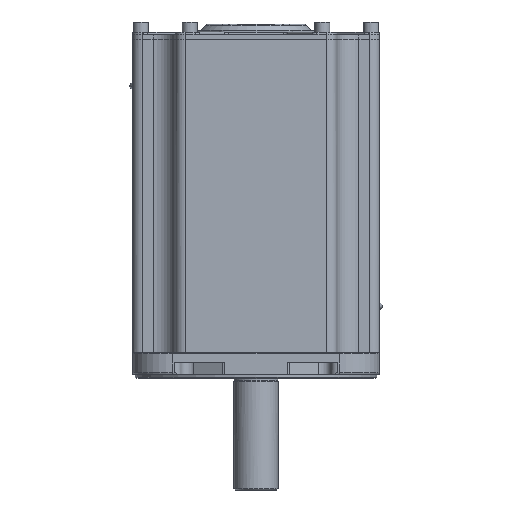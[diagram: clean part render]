
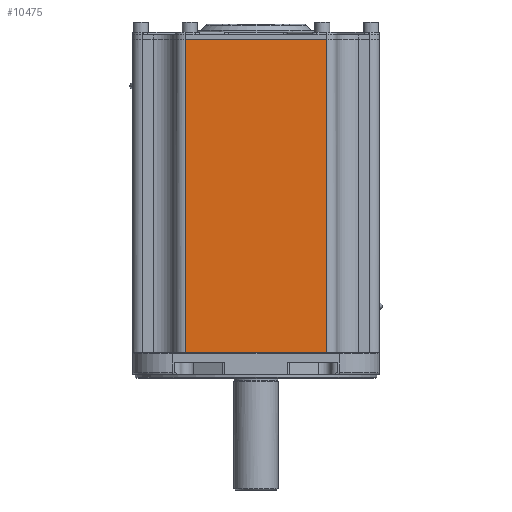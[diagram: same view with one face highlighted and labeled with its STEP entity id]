
A CAD part, front view. The second image highlights one B-rep face of the part: STEP entity #10475.
In plain terms, the highlighted planar face has unit normal (0, -1, 0).
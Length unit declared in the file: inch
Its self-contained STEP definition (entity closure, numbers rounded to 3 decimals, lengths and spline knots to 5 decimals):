
#9955=CARTESIAN_POINT('',(-2.65,-4.625,12.15));
#9956=VERTEX_POINT('',#9955);
#9963=CARTESIAN_POINT('',(2.65,-4.625,12.15));
#9964=VERTEX_POINT('',#9963);
#9965=CARTESIAN_POINT('',(2.65,-4.625,12.15));
#9966=DIRECTION('',(-1.0,0.0,0.0));
#9967=VECTOR('',#9966,5.3);
#9968=LINE('',#9965,#9967);
#9969=EDGE_CURVE('',#9964,#9956,#9968,.T.);
#10424=CARTESIAN_POINT('',(2.65,-4.625,0.4));
#10425=VERTEX_POINT('',#10424);
#10426=CARTESIAN_POINT('',(2.65,-4.625,12.15));
#10427=DIRECTION('',(0.0,0.0,-1.0));
#10428=VECTOR('',#10427,11.75);
#10429=LINE('',#10426,#10428);
#10430=EDGE_CURVE('',#9964,#10425,#10429,.T.);
#10452=CARTESIAN_POINT('',(3.025,-4.625,0.4));
#10453=DIRECTION('',(0.0,-1.0,0.0));
#10454=DIRECTION('',(0.0,0.0,-1.0));
#10455=AXIS2_PLACEMENT_3D('',#10452,#10453,#10454);
#10456=PLANE('',#10455);
#10457=ORIENTED_EDGE('',*,*,#9969,.T.);
#10458=CARTESIAN_POINT('',(-2.65,-4.625,0.4));
#10459=VERTEX_POINT('',#10458);
#10460=CARTESIAN_POINT('',(-2.65,-4.625,0.4));
#10461=DIRECTION('',(0.0,0.0,1.0));
#10462=VECTOR('',#10461,11.75);
#10463=LINE('',#10460,#10462);
#10464=EDGE_CURVE('',#10459,#9956,#10463,.T.);
#10465=ORIENTED_EDGE('',*,*,#10464,.F.);
#10466=CARTESIAN_POINT('',(-2.65,-4.625,0.4));
#10467=DIRECTION('',(1.0,0.0,0.0));
#10468=VECTOR('',#10467,5.3);
#10469=LINE('',#10466,#10468);
#10470=EDGE_CURVE('',#10459,#10425,#10469,.T.);
#10471=ORIENTED_EDGE('',*,*,#10470,.T.);
#10472=ORIENTED_EDGE('',*,*,#10430,.F.);
#10473=EDGE_LOOP('',(#10457,#10465,#10471,#10472));
#10474=FACE_OUTER_BOUND('',#10473,.T.);
#10475=ADVANCED_FACE('',(#10474),#10456,.T.);
